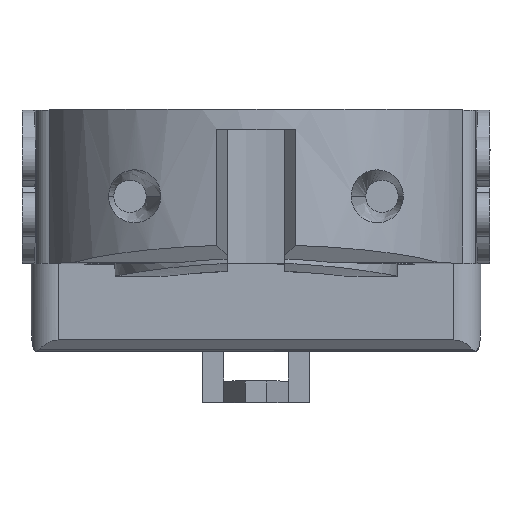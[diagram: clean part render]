
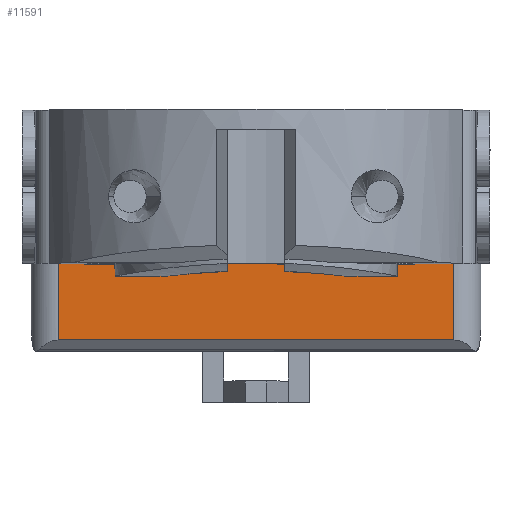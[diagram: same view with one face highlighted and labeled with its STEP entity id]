
A CAD part, top view. The second image highlights one B-rep face of the part: STEP entity #11591.
In plain terms, the highlighted planar face has unit normal (0, 0, 1).
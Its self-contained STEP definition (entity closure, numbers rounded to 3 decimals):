
#9701=CARTESIAN_POINT(' ',(-4.25,-11.,0.));
#9702=VERTEX_POINT(' ',#9701);
#9716=CARTESIAN_POINT(' ',(-4.25,-11.,0.));
#9721=DIRECTION(' ',(0.,1.,0.));
#9726=VECTOR(' ',#9721,1.);
#9731=LINE('',#9716,#9726);
#9736=CARTESIAN_POINT(' ',(-4.25,-9.05,0.));
#9737=VERTEX_POINT(' ',#9736);
#9741=EDGE_CURVE(' ',#9702,#9737,#9731,.T.);
#9981=CARTESIAN_POINT(' ',(-4.25,9.05,0.));
#9982=VERTEX_POINT(' ',#9981);
#9996=CARTESIAN_POINT(' ',(-4.25,9.05,0.));
#10001=DIRECTION(' ',(0.,1.,0.));
#10006=VECTOR(' ',#10001,1.);
#10011=LINE('',#9996,#10006);
#10016=CARTESIAN_POINT(' ',(-4.25,11.,0.));
#10017=VERTEX_POINT(' ',#10016);
#10021=EDGE_CURVE(' ',#9982,#10017,#10011,.T.);
#10556=CARTESIAN_POINT(' ',(8.475,-11.,0.));
#10557=VERTEX_POINT(' ',#10556);
#10571=CARTESIAN_POINT(' ',(-4.25,-11.,0.));
#10576=DIRECTION(' ',(1.,0.,0.));
#10581=VECTOR(' ',#10576,1.);
#10586=LINE('',#10571,#10581);
#10591=EDGE_CURVE(' ',#9702,#10557,#10586,.T.);
#11006=CARTESIAN_POINT(' ',(8.475,11.,0.));
#11011=DIRECTION(' ',(-1.,0.,0.));
#11016=VECTOR(' ',#11011,1.);
#11021=LINE('',#11006,#11016);
#11026=CARTESIAN_POINT(' ',(8.475,11.,0.));
#11027=VERTEX_POINT(' ',#11026);
#11031=EDGE_CURVE(' ',#11027,#10017,#11021,.T.);
#11126=DIRECTION(' ',(-0.,-0.,1.));
#11131=CARTESIAN_POINT(' ',(8.475,-11.,0.));
#11136=DIRECTION(' ',(0.,1.,0.));
#11141=AXIS2_PLACEMENT_3D(' ',#11131,#11126,#11136);
#11146=PLANE('',#11141);
#11151=ORIENTED_EDGE(' ',*,*,#9741,.F.);
#11156=ORIENTED_EDGE(' ',*,*,#10591,.T.);
#11161=CARTESIAN_POINT(' ',(8.475,-11.,0.));
#11166=DIRECTION(' ',(0.,1.,0.));
#11171=VECTOR(' ',#11166,1.);
#11176=LINE('',#11161,#11171);
#11181=EDGE_CURVE(' ',#10557,#11027,#11176,.T.);
#11186=ORIENTED_EDGE(' ',*,*,#11181,.T.);
#11191=ORIENTED_EDGE(' ',*,*,#11031,.T.);
#11196=ORIENTED_EDGE(' ',*,*,#10021,.F.);
#11201=CARTESIAN_POINT(' ',(-4.25,9.05,0.));
#11206=DIRECTION(' ',(1.,0.,0.));
#11211=VECTOR(' ',#11206,1.);
#11216=LINE('',#11201,#11211);
#11221=CARTESIAN_POINT(' ',(4.25,9.05,0.));
#11222=VERTEX_POINT(' ',#11221);
#11226=EDGE_CURVE(' ',#9982,#11222,#11216,.T.);
#11231=ORIENTED_EDGE(' ',*,*,#11226,.T.);
#11236=CARTESIAN_POINT(' ',(4.25,9.05,0.));
#11241=DIRECTION(' ',(0.,-1.,0.));
#11246=VECTOR(' ',#11241,1.);
#11251=LINE('',#11236,#11246);
#11256=CARTESIAN_POINT(' ',(4.25,8.217,0.));
#11257=VERTEX_POINT(' ',#11256);
#11261=EDGE_CURVE(' ',#11222,#11257,#11251,.T.);
#11266=ORIENTED_EDGE(' ',*,*,#11261,.T.);
#11271=CARTESIAN_POINT(' ',(0.4,8.15,0.));
#11276=DIRECTION(' ',(1.,0.017,0.));
#11281=VECTOR(' ',#11276,1.);
#11286=LINE('',#11271,#11281);
#11291=CARTESIAN_POINT(' ',(0.4,8.15,0.));
#11292=VERTEX_POINT(' ',#11291);
#11296=EDGE_CURVE(' ',#11292,#11257,#11286,.T.);
#11301=ORIENTED_EDGE(' ',*,*,#11296,.F.);
#11306=CARTESIAN_POINT(' ',(0.4,0.4,0.));
#11311=DIRECTION(' ',(0.,1.,0.));
#11316=VECTOR(' ',#11311,1.);
#11321=LINE('',#11306,#11316);
#11326=CARTESIAN_POINT(' ',(0.4,0.4,0.));
#11327=VERTEX_POINT(' ',#11326);
#11331=EDGE_CURVE(' ',#11327,#11292,#11321,.T.);
#11336=ORIENTED_EDGE(' ',*,*,#11331,.F.);
#11341=CARTESIAN_POINT(' ',(0.4,0.4,0.));
#11346=DIRECTION(' ',(1.,-0.017,0.));
#11351=VECTOR(' ',#11346,1.);
#11356=LINE('',#11341,#11351);
#11361=CARTESIAN_POINT(' ',(2.828,0.358,0.));
#11362=VERTEX_POINT(' ',#11361);
#11366=EDGE_CURVE(' ',#11327,#11362,#11356,.T.);
#11371=ORIENTED_EDGE(' ',*,*,#11366,.T.);
#11376=CARTESIAN_POINT(' ',(2.828,-0.358,0.));
#11381=DIRECTION(' ',(0.,1.,0.));
#11386=VECTOR(' ',#11381,1.);
#11391=LINE('',#11376,#11386);
#11396=CARTESIAN_POINT(' ',(2.828,-0.358,0.));
#11397=VERTEX_POINT(' ',#11396);
#11401=EDGE_CURVE(' ',#11397,#11362,#11391,.T.);
#11406=ORIENTED_EDGE(' ',*,*,#11401,.F.);
#11411=CARTESIAN_POINT(' ',(0.4,-0.4,0.));
#11416=DIRECTION(' ',(1.,0.017,0.));
#11421=VECTOR(' ',#11416,1.);
#11426=LINE('',#11411,#11421);
#11431=CARTESIAN_POINT(' ',(0.4,-0.4,0.));
#11432=VERTEX_POINT(' ',#11431);
#11436=EDGE_CURVE(' ',#11432,#11397,#11426,.T.);
#11441=ORIENTED_EDGE(' ',*,*,#11436,.F.);
#11446=CARTESIAN_POINT(' ',(0.4,-0.4,0.));
#11451=DIRECTION(' ',(0.,-1.,0.));
#11456=VECTOR(' ',#11451,1.);
#11461=LINE('',#11446,#11456);
#11466=CARTESIAN_POINT(' ',(0.4,-8.15,0.));
#11467=VERTEX_POINT(' ',#11466);
#11471=EDGE_CURVE(' ',#11432,#11467,#11461,.T.);
#11476=ORIENTED_EDGE(' ',*,*,#11471,.T.);
#11481=CARTESIAN_POINT(' ',(0.4,-8.15,0.));
#11486=DIRECTION(' ',(1.,-0.017,0.));
#11491=VECTOR(' ',#11486,1.);
#11496=LINE('',#11481,#11491);
#11501=CARTESIAN_POINT(' ',(4.25,-8.217,0.));
#11502=VERTEX_POINT(' ',#11501);
#11506=EDGE_CURVE(' ',#11467,#11502,#11496,.T.);
#11511=ORIENTED_EDGE(' ',*,*,#11506,.T.);
#11516=CARTESIAN_POINT(' ',(4.25,-8.217,0.));
#11521=DIRECTION(' ',(0.,-1.,0.));
#11526=VECTOR(' ',#11521,1.);
#11531=LINE('',#11516,#11526);
#11536=CARTESIAN_POINT(' ',(4.25,-9.05,0.));
#11537=VERTEX_POINT(' ',#11536);
#11541=EDGE_CURVE(' ',#11502,#11537,#11531,.T.);
#11546=ORIENTED_EDGE(' ',*,*,#11541,.T.);
#11551=CARTESIAN_POINT(' ',(-4.25,-9.05,0.));
#11556=DIRECTION(' ',(1.,0.,0.));
#11561=VECTOR(' ',#11556,1.);
#11566=LINE('',#11551,#11561);
#11571=EDGE_CURVE(' ',#9737,#11537,#11566,.T.);
#11576=ORIENTED_EDGE(' ',*,*,#11571,.F.);
#11581=EDGE_LOOP(' ',(#11151,#11156,#11186,#11191,#11196,#11231,#11266,#11301,#11336,#11371,#11406,#11441,#11476,#11511,#11546,#11576));
#11586=FACE_OUTER_BOUND(' ',#11581,.T.);
#11591=ADVANCED_FACE('',(#11586),#11146,.T.);
